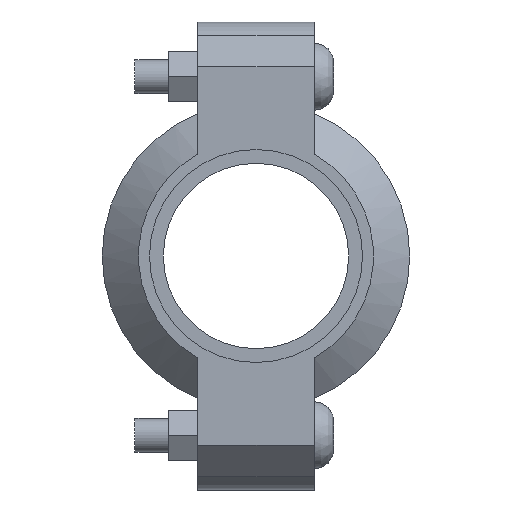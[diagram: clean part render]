
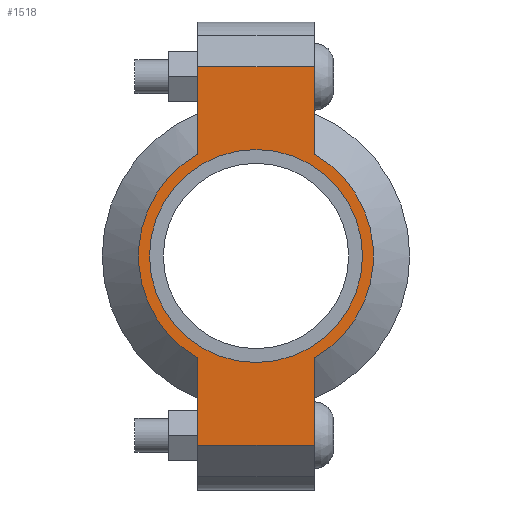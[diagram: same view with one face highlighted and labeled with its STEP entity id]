
A CAD part, left-side view. The second image highlights one B-rep face of the part: STEP entity #1518.
In plain terms, the highlighted planar face has unit normal (-1, 0, 0) as drawn and (0, 0, 1) by its records, which use the part's own axes.
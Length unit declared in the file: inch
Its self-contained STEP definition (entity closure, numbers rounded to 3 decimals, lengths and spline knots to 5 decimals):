
#142=LINE('',#2649,#235);
#150=LINE('',#2685,#243);
#157=LINE('',#2706,#250);
#166=LINE('',#2738,#259);
#167=LINE('',#2742,#260);
#168=LINE('',#2744,#261);
#235=VECTOR('',#2165,0.3937);
#243=VECTOR('',#2181,0.3937);
#250=VECTOR('',#2200,0.3937);
#259=VECTOR('',#2225,0.3937);
#260=VECTOR('',#2230,0.3937);
#261=VECTOR('',#2231,0.3937);
#317=FACE_BOUND('',#495,.T.);
#389=FACE_OUTER_BOUND('',#494,.T.);
#494=EDGE_LOOP('',(#1259,#1260,#1261,#1262,#1263,#1264,#1265,#1266));
#495=EDGE_LOOP('',(#1267));
#567=CIRCLE('',#1737,1.1875);
#593=CIRCLE('',#1796,1.31);
#594=CIRCLE('',#1797,1.31);
#659=VERTEX_POINT('',#2465);
#702=VERTEX_POINT('',#2646);
#703=VERTEX_POINT('',#2648);
#714=VERTEX_POINT('',#2680);
#715=VERTEX_POINT('',#2684);
#722=VERTEX_POINT('',#2703);
#723=VERTEX_POINT('',#2705);
#733=VERTEX_POINT('',#2741);
#734=VERTEX_POINT('',#2743);
#815=EDGE_CURVE('',#659,#659,#567,.T.);
#876=EDGE_CURVE('',#703,#702,#142,.T.);
#890=EDGE_CURVE('',#715,#714,#150,.T.);
#900=EDGE_CURVE('',#723,#722,#157,.T.);
#915=EDGE_CURVE('',#715,#702,#166,.T.);
#916=EDGE_CURVE('',#714,#723,#593,.T.);
#917=EDGE_CURVE('',#733,#722,#167,.T.);
#918=EDGE_CURVE('',#733,#734,#168,.T.);
#919=EDGE_CURVE('',#734,#703,#594,.T.);
#1259=ORIENTED_EDGE('',*,*,#915,.F.);
#1260=ORIENTED_EDGE('',*,*,#890,.T.);
#1261=ORIENTED_EDGE('',*,*,#916,.T.);
#1262=ORIENTED_EDGE('',*,*,#900,.T.);
#1263=ORIENTED_EDGE('',*,*,#917,.F.);
#1264=ORIENTED_EDGE('',*,*,#918,.T.);
#1265=ORIENTED_EDGE('',*,*,#919,.T.);
#1266=ORIENTED_EDGE('',*,*,#876,.T.);
#1267=ORIENTED_EDGE('',*,*,#815,.T.);
#1360=PLANE('',#1795);
#1518=ADVANCED_FACE('',(#389,#317),#1360,.T.);
#1737=AXIS2_PLACEMENT_3D('',#2467,#2041,#2042);
#1795=AXIS2_PLACEMENT_3D('',#2739,#2226,#2227);
#1796=AXIS2_PLACEMENT_3D('',#2740,#2228,#2229);
#1797=AXIS2_PLACEMENT_3D('',#2745,#2232,#2233);
#2041=DIRECTION('center_axis',(0.,0.,-1.));
#2042=DIRECTION('ref_axis',(-1.,0.,0.));
#2165=DIRECTION('',(-1.,0.,0.));
#2181=DIRECTION('',(1.,0.,0.));
#2200=DIRECTION('',(1.,0.,0.));
#2225=DIRECTION('',(0.,1.,0.));
#2226=DIRECTION('center_axis',(0.,0.,1.));
#2227=DIRECTION('ref_axis',(1.,0.,0.));
#2228=DIRECTION('center_axis',(0.,0.,1.));
#2229=DIRECTION('ref_axis',(-1.,0.,0.));
#2230=DIRECTION('',(0.,-1.,0.));
#2231=DIRECTION('',(-1.,0.,0.));
#2232=DIRECTION('center_axis',(0.,0.,1.));
#2233=DIRECTION('ref_axis',(-1.,0.,0.));
#2465=CARTESIAN_POINT('',(1.1875,0.,0.94));
#2467=CARTESIAN_POINT('Origin',(0.,0.,0.94));
#2646=CARTESIAN_POINT('',(-2.11,0.65,0.94));
#2648=CARTESIAN_POINT('',(-1.13737,0.65,0.94));
#2649=CARTESIAN_POINT('',(-2.61,0.65,0.94));
#2680=CARTESIAN_POINT('',(-1.13737,-0.65,0.94));
#2684=CARTESIAN_POINT('',(-2.11,-0.65,0.94));
#2685=CARTESIAN_POINT('',(2.61,-0.65,0.94));
#2703=CARTESIAN_POINT('',(2.11,-0.65,0.94));
#2705=CARTESIAN_POINT('',(1.13737,-0.65,0.94));
#2706=CARTESIAN_POINT('',(2.61,-0.65,0.94));
#2738=CARTESIAN_POINT('',(-2.11,0.325,0.94));
#2739=CARTESIAN_POINT('Origin',(0.,0.,0.94));
#2740=CARTESIAN_POINT('Origin',(0.,0.,0.94));
#2741=CARTESIAN_POINT('',(2.11,0.65,0.94));
#2742=CARTESIAN_POINT('',(2.11,-0.325,0.94));
#2743=CARTESIAN_POINT('',(1.13737,0.65,0.94));
#2744=CARTESIAN_POINT('',(-2.61,0.65,0.94));
#2745=CARTESIAN_POINT('Origin',(0.,0.,0.94));
